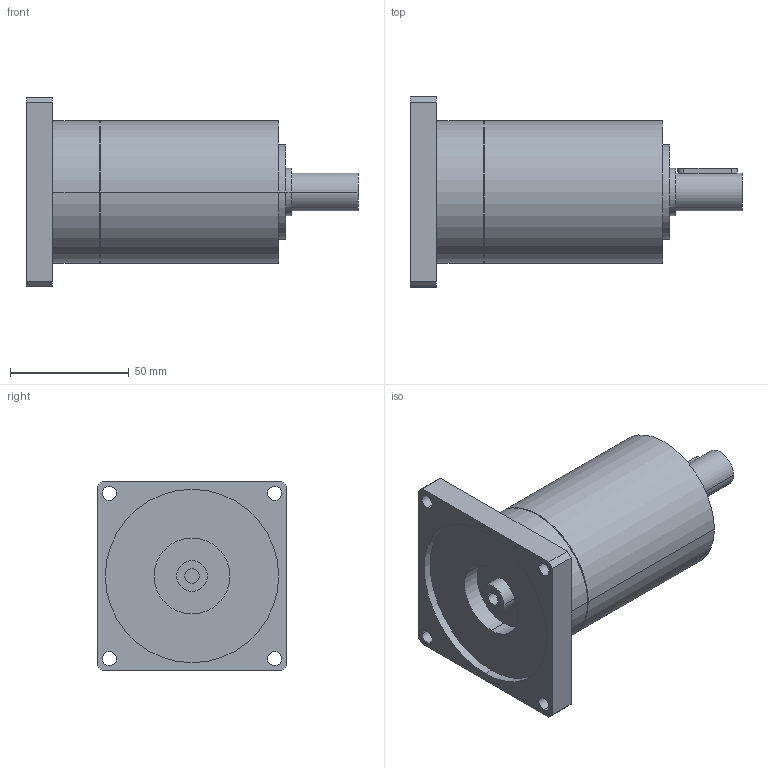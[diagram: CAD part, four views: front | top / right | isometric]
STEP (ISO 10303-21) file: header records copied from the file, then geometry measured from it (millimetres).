
FILE_DESCRIPTION(('CoCreate Modeling STEP Export'),'2;1');
FILE_NAME('GPR75_ig-9-12-16-20-24-30-36_16_B14_6_P06.stp','2014-08-25T16:04:33',(''),(''),'CoCreate Modeling STEP processor for AP214 (Solid Model)','CoCreate Modeling 16.00C 25-Feb-2009 (C) Parametric Technology GmbH','');
FILE_SCHEMA(('AUTOMOTIVE_DESIGN { 1 0 10303 214 1 1 1 1 }'));
Length unit declared in the file: millimetre
Products named in the file (2): GPR75_ig-9-12-16-20-24-30-36_16_B14_6_P06
Assembly tree (1 placements, depth 2):
  GPR75_ig-9-12-16-20-24-30-36_16_B14_6_P06
    GPR75_ig-9-12-16-20-24-30-36_16_B14_6_P06
Bounding box: 139.9 x 80 x 80 mm (x, y, z)
Volume: 327857.8 mm3; surface area: 40048.3 mm2
Topology: 1 solids, 1 shells, 70 faces, 189 edges, 133 vertices
Faces by surface type: cylinder 42, plane 22, cone 6
Entity records: 1944 total; most frequent: ORIENTED_EDGE 374, CARTESIAN_POINT 361, DIRECTION 262, EDGE_CURVE 187, VERTEX_POINT 133, AXIS2_PLACEMENT_3D 98, EDGE_LOOP 92, FACE_OUTER_BOUND 70
